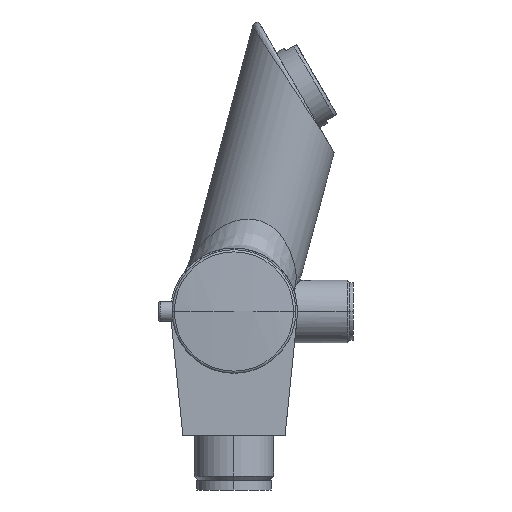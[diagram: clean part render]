
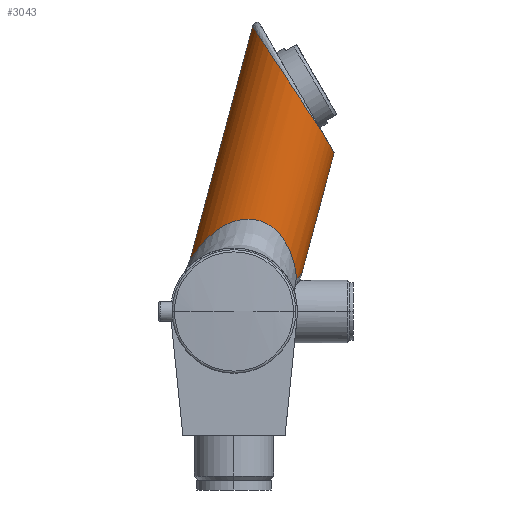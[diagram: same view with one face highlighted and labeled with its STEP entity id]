
A CAD part, left-side view. The second image highlights one B-rep face of the part: STEP entity #3043.
In plain terms, the highlighted cylindrical face has radius 18 mm (diameter 36 mm), a partial arc.
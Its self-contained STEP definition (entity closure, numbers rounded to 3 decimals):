
#892=CARTESIAN_POINT('',(-6.199,-20.326,10.566));
#1011=DIRECTION('',(0.,-0.259,0.966));
#1012=VECTOR('',#1011,40.429);
#1013=CARTESIAN_POINT('',(0.,-21.917,12.25));
#1014=LINE('',#1013,#1012);
#1015=CARTESIAN_POINT('',(0.,-32.381,51.301));
#1047=CARTESIAN_POINT('',(0.,-6.043,
92.098));
#1055=CARTESIAN_POINT('',(0.,-21.917,12.25));
#1056=CARTESIAN_POINT('',(-0.402,-21.918,
12.251));
#1057=CARTESIAN_POINT('',(-1.212,-21.879,
12.21));
#1058=CARTESIAN_POINT('',(-2.445,-21.7,
12.026));
#1059=CARTESIAN_POINT('',(-3.682,-21.394,
11.707));
#1060=CARTESIAN_POINT('',(-4.939,-20.948,
11.24));
#1061=CARTESIAN_POINT('',(-5.779,-20.551,
10.809));
#1062=CARTESIAN_POINT('',(-6.199,-20.326,
10.566));
#1064=CARTESIAN_POINT('',(-6.199,-20.326,
10.566));
#1065=CARTESIAN_POINT('',(-6.263,-20.32,
10.633));
#1066=CARTESIAN_POINT('',(-6.65,-20.278,
11.036));
#1067=CARTESIAN_POINT('',(-7.353,-20.185,
11.813));
#1068=CARTESIAN_POINT('',(-8.289,-20.017,
12.928));
#1069=CARTESIAN_POINT('',(-9.21,-19.801,
14.096));
#1070=CARTESIAN_POINT('',(-10.111,-19.53,
15.301));
#1071=CARTESIAN_POINT('',(-10.989,-19.202,
16.528));
#1072=CARTESIAN_POINT('',(-11.836,-18.814,
17.76));
#1073=CARTESIAN_POINT('',(-12.659,-18.357,
19.002));
#1074=CARTESIAN_POINT('',(-13.483,-17.805,
20.291));
#1075=CARTESIAN_POINT('',(-14.329,-17.115,
21.665));
#1076=CARTESIAN_POINT('',(-15.18,-16.25,
23.109));
#1077=CARTESIAN_POINT('',(-15.977,-15.212,
24.537));
#1078=CARTESIAN_POINT('',(-16.66,-14.046,
25.842));
#1079=CARTESIAN_POINT('',(-17.198,-12.803,
26.964));
#1080=CARTESIAN_POINT('',(-17.595,-11.509,
27.894));
#1081=CARTESIAN_POINT('',(-17.859,-10.169,
28.643));
#1082=CARTESIAN_POINT('',(-17.998,-8.776,
29.221));
#1083=CARTESIAN_POINT('',(-18.011,-7.323,
29.631));
#1084=CARTESIAN_POINT('',(-17.896,-5.798,
29.869));
#1085=CARTESIAN_POINT('',(-17.64,-4.188,
29.923));
#1086=CARTESIAN_POINT('',(-17.228,-2.484,
29.772));
#1087=CARTESIAN_POINT('',(-16.649,-0.72,
29.398));
#1088=CARTESIAN_POINT('',(-15.929,1.014,28.815));
#1089=CARTESIAN_POINT('',(-15.129,2.609,28.09));
#1090=CARTESIAN_POINT('',(-14.311,4.015,27.302));
#1091=CARTESIAN_POINT('',(-13.496,5.254,26.488));
#1092=CARTESIAN_POINT('',(-12.67,6.383,25.646));
#1093=CARTESIAN_POINT('',(-11.812,7.443,24.763));
#1094=CARTESIAN_POINT('',(-10.919,8.442,23.842));
#1095=CARTESIAN_POINT('',(-9.992,9.38,22.895));
#1096=CARTESIAN_POINT('',(-9.019,10.269,21.918));
#1097=CARTESIAN_POINT('',(-7.979,11.118,20.906));
#1098=CARTESIAN_POINT('',(-6.877,11.908,19.887));
#1099=CARTESIAN_POINT('',(-5.753,12.6,18.929));
#1100=CARTESIAN_POINT('',(-4.663,13.161,18.101));
#1101=CARTESIAN_POINT('',(-3.633,13.59,17.436));
#1102=CARTESIAN_POINT('',(-2.666,13.901,16.935));
#1103=CARTESIAN_POINT('',(-1.748,14.11,16.588));
#1104=CARTESIAN_POINT('',(-0.866,14.23,
16.385));
#1105=CARTESIAN_POINT('',(-0.286,14.256,
16.341));
#1106=CARTESIAN_POINT('',(-0.002,14.257,
16.34));
#1107=CARTESIAN_POINT('',(0.,14.257,
16.34));
#1109=DIRECTION('',(0.,-0.259,0.966));
#1110=VECTOR('',#1109,78.43);
#1111=CARTESIAN_POINT('',(0.,14.257,
16.34));
#1112=LINE('',#1111,#1110);
#1113=CARTESIAN_POINT('',(0.,-6.043,
92.098));
#1114=CARTESIAN_POINT('',(-0.624,-6.043,
92.098));
#1115=CARTESIAN_POINT('',(-1.879,-6.09,
92.025));
#1116=CARTESIAN_POINT('',(-3.755,-6.308,
91.694));
#1117=CARTESIAN_POINT('',(-5.631,-6.68,
91.13));
#1118=CARTESIAN_POINT('',(-7.494,-7.214,
90.319));
#1119=CARTESIAN_POINT('',(-9.332,-7.926,
89.238));
#1120=CARTESIAN_POINT('',(-11.118,-8.829,
87.867));
#1121=CARTESIAN_POINT('',(-12.816,-9.935,
86.187));
#1122=CARTESIAN_POINT('',(-14.377,-11.252,
84.187));
#1123=CARTESIAN_POINT('',(-15.741,-12.775,
81.874));
#1124=CARTESIAN_POINT('',(-16.843,-14.486,
79.276));
#1125=CARTESIAN_POINT('',(-17.619,-16.349,
76.447));
#1126=CARTESIAN_POINT('',(-18.019,-18.311,
73.467));
#1127=CARTESIAN_POINT('',(-18.014,-20.308,
70.435));
#1128=CARTESIAN_POINT('',(-17.606,-22.269,
67.458));
#1129=CARTESIAN_POINT('',(-16.823,-24.129,
64.633));
#1130=CARTESIAN_POINT('',(-15.714,-25.836,
62.041));
#1131=CARTESIAN_POINT('',(-14.345,-27.355,
59.735));
#1132=CARTESIAN_POINT('',(-13.303,-28.229,
58.408));
#1133=CARTESIAN_POINT('',(-12.759,-28.631,
57.796));
#1135=CARTESIAN_POINT('',(0.,-32.381,51.301));
#1136=CARTESIAN_POINT('',(-0.536,-32.381,
51.301));
#1137=CARTESIAN_POINT('',(-1.61,-32.347,
51.36));
#1138=CARTESIAN_POINT('',(-3.223,-32.193,
51.627));
#1139=CARTESIAN_POINT('',(-4.841,-31.931,
52.081));
#1140=CARTESIAN_POINT('',(-6.463,-31.554,
52.735));
#1141=CARTESIAN_POINT('',(-8.082,-31.05,
53.607));
#1142=CARTESIAN_POINT('',(-9.689,-30.408,
54.719));
#1143=CARTESIAN_POINT('',(-11.263,-29.615,
56.093));
#1144=CARTESIAN_POINT('',(-12.27,-28.978,
57.195));
#1145=CARTESIAN_POINT('',(-12.759,-28.631,
57.796));
#1442=VERTEX_POINT('',#1015);
#1444=VERTEX_POINT('',#1047);
#1445=CARTESIAN_POINT('',(0.,14.257,
16.34));
#1446=VERTEX_POINT('',#1445);
#1447=VERTEX_POINT('',#1133);
#1449=CARTESIAN_POINT('',(0.,-21.917,12.25));
#1450=VERTEX_POINT('',#1449);
#1458=VERTEX_POINT('',#892);
#3028=CARTESIAN_POINT('',(0.,3.094,-11.548));
#3029=DIRECTION('',(0.,-0.259,0.966));
#3030=DIRECTION('',(0.,-0.966,-0.259));
#3031=AXIS2_PLACEMENT_3D('',#3028,#3029,#3030);
#3032=CYLINDRICAL_SURFACE('',#3031,18.);
#3033=ORIENTED_EDGE('',*,*,#3013,.T.);
#3034=ORIENTED_EDGE('',*,*,#2958,.T.);
#3035=ORIENTED_EDGE('',*,*,#3021,.T.);
#3037=ORIENTED_EDGE('',*,*,#3036,.T.);
#3039=ORIENTED_EDGE('',*,*,#3038,.F.);
#3040=ORIENTED_EDGE('',*,*,#3015,.F.);
#3041=EDGE_LOOP('',(#3033,#3034,#3035,#3037,#3039,#3040));
#3042=FACE_OUTER_BOUND('',#3041,.F.);
#3043=ADVANCED_FACE('',(#3042),#3032,.T.);
#1063=B_SPLINE_CURVE_WITH_KNOTS('',3,(#1055,#1056,#1057,#1058,#1059,#1060,#1061,
#1062),.UNSPECIFIED.,.F.,.F.,(4,1,1,1,1,4),(0.,0.2,0.4,0.6,0.8,1.),
.UNSPECIFIED.);
#1108=B_SPLINE_CURVE_WITH_KNOTS('',3,(#1064,#1065,#1066,#1067,#1068,#1069,#1070,
#1071,#1072,#1073,#1074,#1075,#1076,#1077,#1078,#1079,#1080,#1081,#1082,#1083,
#1084,#1085,#1086,#1087,#1088,#1089,#1090,#1091,#1092,#1093,#1094,#1095,#1096,
#1097,#1098,#1099,#1100,#1101,#1102,#1103,#1104,#1105,#1106,#1107),
.UNSPECIFIED.,.F.,.F.,(4,1,1,1,1,1,1,1,1,1,1,1,1,1,1,1,1,1,1,1,1,1,1,1,1,1,1,1,
1,1,1,1,1,1,1,1,1,1,1,1,1,4),(0.,0.005,0.027,
0.051,0.074,0.098,0.122,
0.146,0.17,0.195,0.222,
0.252,0.284,0.314,0.343,
0.37,0.395,0.42,0.445,
0.471,0.498,0.527,0.558,
0.59,0.621,0.649,0.675,
0.701,0.726,0.751,0.776,
0.802,0.828,0.856,0.883,
0.907,0.929,0.949,0.967,
0.984,1.,1.),.UNSPECIFIED.);
#1134=B_SPLINE_CURVE_WITH_KNOTS('',3,(#1113,#1114,#1115,#1116,#1117,#1118,#1119,
#1120,#1121,#1122,#1123,#1124,#1125,#1126,#1127,#1128,#1129,#1130,#1131,#1132,
#1133),.UNSPECIFIED.,.F.,.F.,(4,1,1,1,1,1,1,1,1,1,1,1,1,1,1,1,1,1,4),(0.,
0.056,0.111,0.167,0.222,
0.278,0.333,0.389,0.444,0.5,
0.556,0.611,0.667,0.722,
0.778,0.833,0.889,0.944,1.),
.UNSPECIFIED.);
#1146=B_SPLINE_CURVE_WITH_KNOTS('',3,(#1135,#1136,#1137,#1138,#1139,#1140,#1141,
#1142,#1143,#1144,#1145),.UNSPECIFIED.,.F.,.F.,(4,1,1,1,1,1,1,1,4),(0.,
0.125,0.25,0.375,0.5,0.625,0.75,0.875,1.),.UNSPECIFIED.);
#2958=EDGE_CURVE('',#1458,#1446,#1108,.T.);
#3013=EDGE_CURVE('',#1450,#1458,#1063,.T.);
#3015=EDGE_CURVE('',#1450,#1442,#1014,.T.);
#3021=EDGE_CURVE('',#1446,#1444,#1112,.T.);
#3036=EDGE_CURVE('',#1444,#1447,#1134,.T.);
#3038=EDGE_CURVE('',#1442,#1447,#1146,.T.);
